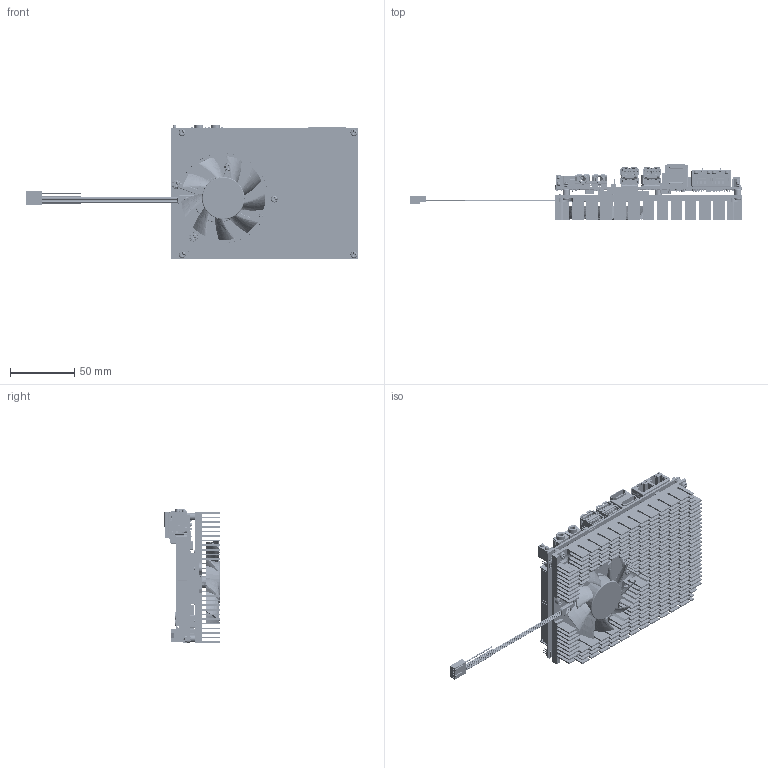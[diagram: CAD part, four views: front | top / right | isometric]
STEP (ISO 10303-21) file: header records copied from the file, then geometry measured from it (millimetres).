
FILE_DESCRIPTION((''),'2;1');
FILE_NAME('ECM-WHL_ASM','2019-10-09T14:30:38',('jamie_liao'),(''),'CREO PARAMETRIC BY PTC INC, 2017110','CREO PARAMETRIC BY PTC INC, 2017110','');
FILE_SCHEMA(('CONFIG_CONTROL_DESIGN','GEOMETRIC_VALIDATION_PROPERTIES_MIM'));
Products named in the file (53): A0_PCB_20190312; A0_PCB; ECM-WHL-A1_PCB; E1304400003H_1; E16D5I00301R; E1652528305R; E16A37D040DH; E16A37D0404H; E16BB671033H; E16BB671030H; E1613620001R; E1613520001R; WHISKEY_LAKE_MOILE_CPU; HDMI; LAN; USB; LED; E1613620000R; E1662510201H; E1667220301R; E1672620202R; 5PIN; E1664410000R_3; E16H1671300R; AUDIO_DXF; 4PIN; E16C4070000H; 3PIN; E1613310000R_1; E1662210201H_2; E1660210201H_1; SIM_6PIN_CME_2_1; SIM_K_CME_R_1; SIM_6PIN_L_R_1; 115G-AAAA-R_C_1_ASM_6_ASM; E1695060300H_ASM; E193A3601X0R; E193A231062R; E16F1038031R; 9A514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
Assembly tree (80 placements, depth 4):
  ECM-WHL_ASM
    A0_PCB_20190312
    A0_PCB
    ECM-WHL-A1_PCB
    E1304400003H_1
    E16D5I00301R  x2
    E1652528305R
    E16A37D040DH
    E16A37D0404H
    E16BB671033H
    E16BB671030H
    E1613620001R
    E1613520001R  x2
    WHISKEY_LAKE_MOILE_CPU
    HDMI
    LAN
    USB  x2
    LED
    E1613620000R
    E1662510201H
    E1667220301R
    E1672620202R
    5PIN
    E1664410000R_3
    E16H1671300R  x2
    AUDIO_DXF  x2
    4PIN
    E16C4070000H
    3PIN
    E1613310000R_1  x4
    E1662210201H_2  x2
    E1660210201H_1
    E1695060300H_ASM
      115G-AAAA-R_C_1_ASM_6_ASM
        SIM_6PIN_CME_2_1
        SIM_K_CME_R_1
        SIM_6PIN_L_R_1  x6
    E193A3601X0R  x2
    E193A231062R  x2
    E16F1038031R
    CPU_COOLER_ASM
      9A514
      32-00112-0110-A000_ASM
      E1932030401R  x4
      40X40X2-7_CU
      E1931030801R  x2
      E1935031201R  x5
      4PNE_CONN
    E1183627721H  x2
    E1212201028H  x2
    E121220222EH
    E1212204715H
    E1212201510H  x3
Bounding box: 258.85 x 43.14 x 104.4 mm (x, y, z)
Volume: 175516.1 mm3; surface area: 222224.3 mm2
Topology: 129 solids, 130 shells, 28490 faces, 79994 edges, 51903 vertices
Faces by surface type: plane 20886, cylinder 6611, bspline 620, torus 224, cone 109, sphere 24, extrusion 16
Entity records: 873209 total; most frequent: CARTESIAN_POINT 164432, ORIENTED_EDGE 126756, DIRECTION 116166, EDGE_CURVE 63378, VECTOR 51230, LINE 51218, VERTEX_POINT 41280, AXIS2_PLACEMENT_3D 32468
